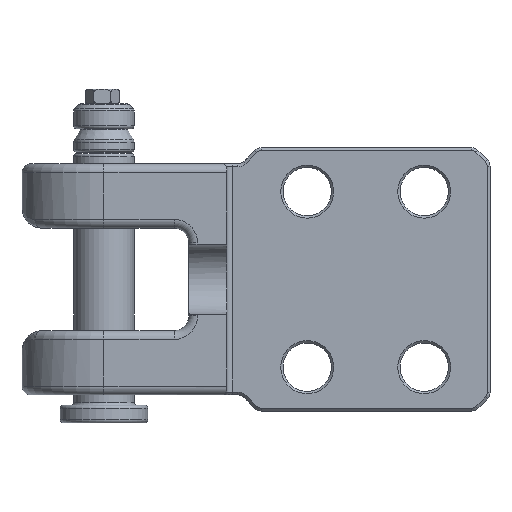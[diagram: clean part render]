
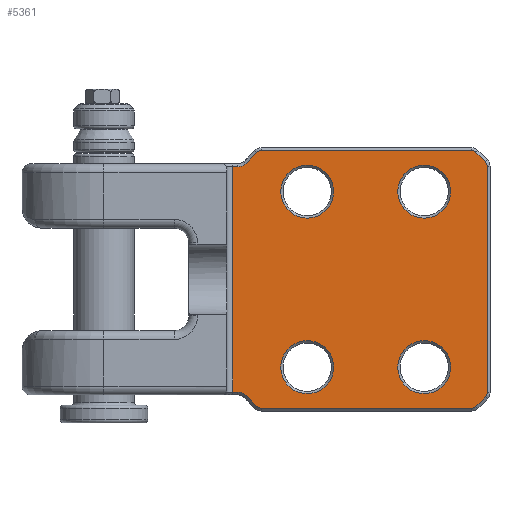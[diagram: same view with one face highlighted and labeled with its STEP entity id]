
A CAD part, left-side view. The second image highlights one B-rep face of the part: STEP entity #5361.
In plain terms, the highlighted planar face has unit normal (-1, 0, 0).
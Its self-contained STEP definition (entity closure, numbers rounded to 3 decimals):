
#680=LINE('',#24152,#1715);
#681=LINE('',#24154,#1716);
#682=LINE('',#24156,#1717);
#683=LINE('',#24160,#1718);
#684=LINE('',#24164,#1719);
#685=LINE('',#24168,#1720);
#686=LINE('',#24172,#1721);
#687=LINE('',#24176,#1722);
#688=LINE('',#24180,#1723);
#689=LINE('',#24184,#1724);
#1715=VECTOR('',#17602,1.);
#1716=VECTOR('',#17603,1.);
#1717=VECTOR('',#17604,1.);
#1718=VECTOR('',#17607,1.);
#1719=VECTOR('',#17610,1.);
#1720=VECTOR('',#17613,1.);
#1721=VECTOR('',#17616,1.);
#1722=VECTOR('',#17619,1.);
#1723=VECTOR('',#17622,1.);
#1724=VECTOR('',#17625,1.);
#5361=ADVANCED_FACE('',(#6643,#6644,#6645,#6646,#6647),#6240,.F.);
#6240=PLANE('',#16565);
#6643=FACE_BOUND('',#6864,.T.);
#6644=FACE_BOUND('',#6865,.T.);
#6645=FACE_BOUND('',#6866,.T.);
#6646=FACE_BOUND('',#6867,.T.);
#6647=FACE_BOUND('',#6868,.T.);
#6864=EDGE_LOOP('',(#8267));
#6865=EDGE_LOOP('',(#8268));
#6866=EDGE_LOOP('',(#8269));
#6867=EDGE_LOOP('',(#8270));
#6868=EDGE_LOOP('',(#8271,#8272,#8273,#8274,#8275,#8276,#8277,#8278,#8279,
#8280,#8281,#8282,#8283,#8284,#8285,#8286,#8287,#8288));
#8267=ORIENTED_EDGE('',*,*,#14329,.T.);
#8268=ORIENTED_EDGE('',*,*,#14330,.T.);
#8269=ORIENTED_EDGE('',*,*,#14331,.T.);
#8270=ORIENTED_EDGE('',*,*,#14332,.T.);
#8271=ORIENTED_EDGE('',*,*,#14333,.T.);
#8272=ORIENTED_EDGE('',*,*,#14334,.T.);
#8273=ORIENTED_EDGE('',*,*,#14335,.T.);
#8274=ORIENTED_EDGE('',*,*,#14336,.T.);
#8275=ORIENTED_EDGE('',*,*,#14337,.T.);
#8276=ORIENTED_EDGE('',*,*,#14338,.T.);
#8277=ORIENTED_EDGE('',*,*,#14339,.T.);
#8278=ORIENTED_EDGE('',*,*,#14340,.T.);
#8279=ORIENTED_EDGE('',*,*,#14341,.T.);
#8280=ORIENTED_EDGE('',*,*,#14342,.T.);
#8281=ORIENTED_EDGE('',*,*,#14343,.T.);
#8282=ORIENTED_EDGE('',*,*,#14344,.T.);
#8283=ORIENTED_EDGE('',*,*,#14345,.T.);
#8284=ORIENTED_EDGE('',*,*,#14346,.T.);
#8285=ORIENTED_EDGE('',*,*,#14347,.T.);
#8286=ORIENTED_EDGE('',*,*,#14348,.T.);
#8287=ORIENTED_EDGE('',*,*,#14349,.T.);
#8288=ORIENTED_EDGE('',*,*,#14350,.T.);
#12802=VERTEX_POINT('',#24142);
#12803=VERTEX_POINT('',#24144);
#12804=VERTEX_POINT('',#24146);
#12805=VERTEX_POINT('',#24148);
#12806=VERTEX_POINT('',#24150);
#12807=VERTEX_POINT('',#24151);
#12808=VERTEX_POINT('',#24153);
#12809=VERTEX_POINT('',#24155);
#12810=VERTEX_POINT('',#24157);
#12811=VERTEX_POINT('',#24159);
#12812=VERTEX_POINT('',#24161);
#12813=VERTEX_POINT('',#24163);
#12814=VERTEX_POINT('',#24165);
#12815=VERTEX_POINT('',#24167);
#12816=VERTEX_POINT('',#24169);
#12817=VERTEX_POINT('',#24171);
#12818=VERTEX_POINT('',#24173);
#12819=VERTEX_POINT('',#24175);
#12820=VERTEX_POINT('',#24177);
#12821=VERTEX_POINT('',#24179);
#12822=VERTEX_POINT('',#24181);
#12823=VERTEX_POINT('',#24183);
#14329=EDGE_CURVE('',#12802,#12802,#16267,.T.);
#14330=EDGE_CURVE('',#12803,#12803,#16268,.T.);
#14331=EDGE_CURVE('',#12804,#12804,#16269,.T.);
#14332=EDGE_CURVE('',#12805,#12805,#16270,.T.);
#14333=EDGE_CURVE('',#12806,#12807,#16271,.T.);
#14334=EDGE_CURVE('',#12807,#12808,#680,.T.);
#14335=EDGE_CURVE('',#12808,#12809,#681,.T.);
#14336=EDGE_CURVE('',#12809,#12810,#682,.T.);
#14337=EDGE_CURVE('',#12810,#12811,#16272,.T.);
#14338=EDGE_CURVE('',#12811,#12812,#683,.T.);
#14339=EDGE_CURVE('',#12812,#12813,#16273,.T.);
#14340=EDGE_CURVE('',#12813,#12814,#684,.T.);
#14341=EDGE_CURVE('',#12814,#12815,#16274,.T.);
#14342=EDGE_CURVE('',#12815,#12816,#685,.T.);
#14343=EDGE_CURVE('',#12816,#12817,#16275,.T.);
#14344=EDGE_CURVE('',#12817,#12818,#686,.T.);
#14345=EDGE_CURVE('',#12818,#12819,#16276,.T.);
#14346=EDGE_CURVE('',#12819,#12820,#687,.T.);
#14347=EDGE_CURVE('',#12820,#12821,#16277,.T.);
#14348=EDGE_CURVE('',#12821,#12822,#688,.T.);
#14349=EDGE_CURVE('',#12822,#12823,#16278,.T.);
#14350=EDGE_CURVE('',#12823,#12806,#689,.T.);
#16267=CIRCLE('',#16553,9.05);
#16268=CIRCLE('',#16554,9.05);
#16269=CIRCLE('',#16555,9.05);
#16270=CIRCLE('',#16556,9.05);
#16271=CIRCLE('',#16557,4.);
#16272=CIRCLE('',#16558,4.);
#16273=CIRCLE('',#16559,2.);
#16274=CIRCLE('',#16560,2.);
#16275=CIRCLE('',#16561,2.);
#16276=CIRCLE('',#16562,2.);
#16277=CIRCLE('',#16563,2.);
#16278=CIRCLE('',#16564,2.);
#16553=AXIS2_PLACEMENT_3D('',#24141,#17592,#17593);
#16554=AXIS2_PLACEMENT_3D('',#24143,#17594,#17595);
#16555=AXIS2_PLACEMENT_3D('',#24145,#17596,#17597);
#16556=AXIS2_PLACEMENT_3D('',#24147,#17598,#17599);
#16557=AXIS2_PLACEMENT_3D('',#24149,#17600,#17601);
#16558=AXIS2_PLACEMENT_3D('',#24158,#17605,#17606);
#16559=AXIS2_PLACEMENT_3D('',#24162,#17608,#17609);
#16560=AXIS2_PLACEMENT_3D('',#24166,#17611,#17612);
#16561=AXIS2_PLACEMENT_3D('',#24170,#17614,#17615);
#16562=AXIS2_PLACEMENT_3D('',#24174,#17617,#17618);
#16563=AXIS2_PLACEMENT_3D('',#24178,#17620,#17621);
#16564=AXIS2_PLACEMENT_3D('',#24182,#17623,#17624);
#16565=AXIS2_PLACEMENT_3D('',#24185,#17626,#17627);
#17592=DIRECTION('',(1.,0.,0.));
#17593=DIRECTION('',(0.,0.,-1.));
#17594=DIRECTION('',(1.,0.,0.));
#17595=DIRECTION('',(0.,0.,-1.));
#17596=DIRECTION('',(1.,0.,0.));
#17597=DIRECTION('',(0.,0.,-1.));
#17598=DIRECTION('',(1.,0.,0.));
#17599=DIRECTION('',(0.,0.,-1.));
#17600=DIRECTION('',(1.,0.,0.));
#17601=DIRECTION('',(0.,0.,-1.));
#17602=DIRECTION('',(0.,1.,0.));
#17603=DIRECTION('',(0.,0.,-1.));
#17604=DIRECTION('',(0.,-1.,0.));
#17605=DIRECTION('',(1.,0.,0.));
#17606=DIRECTION('',(0.,0.,-1.));
#17607=DIRECTION('',(0.,-0.707,-0.707));
#17608=DIRECTION('',(-1.,0.,0.));
#17609=DIRECTION('',(0.,0.,-1.));
#17610=DIRECTION('',(0.,-1.,0.));
#17611=DIRECTION('',(-1.,0.,0.));
#17612=DIRECTION('',(0.,0.,-1.));
#17613=DIRECTION('',(0.,-0.707,0.707));
#17614=DIRECTION('',(-1.,0.,0.));
#17615=DIRECTION('',(0.,0.,-1.));
#17616=DIRECTION('',(0.,0.,1.));
#17617=DIRECTION('',(-1.,0.,0.));
#17618=DIRECTION('',(0.,0.,-1.));
#17619=DIRECTION('',(0.,0.707,0.707));
#17620=DIRECTION('',(-1.,0.,0.));
#17621=DIRECTION('',(0.,0.,-1.));
#17622=DIRECTION('',(0.,1.,0.));
#17623=DIRECTION('',(-1.,0.,0.));
#17624=DIRECTION('',(0.,0.,-1.));
#17625=DIRECTION('',(0.,0.707,-0.707));
#17626=DIRECTION('',(1.,0.,0.));
#17627=DIRECTION('',(0.,0.,-1.));
#24141=CARTESIAN_POINT('',(-8.,22.5,-75.));
#24142=CARTESIAN_POINT('',(-8.,22.5,-84.05));
#24143=CARTESIAN_POINT('',(-8.,22.5,-15.));
#24144=CARTESIAN_POINT('',(-8.,22.5,-24.05));
#24145=CARTESIAN_POINT('',(-8.,62.5,-15.));
#24146=CARTESIAN_POINT('',(-8.,62.5,-24.05));
#24147=CARTESIAN_POINT('',(-8.,62.5,-75.));
#24148=CARTESIAN_POINT('',(-8.,62.5,-84.05));
#24149=CARTESIAN_POINT('',(-8.,86.243,-2.5));
#24150=CARTESIAN_POINT('',(-8.,83.414,-5.328));
#24151=CARTESIAN_POINT('',(-8.,86.243,-6.5));
#24152=CARTESIAN_POINT('',(-8.,0.,-6.5));
#24153=CARTESIAN_POINT('',(-8.,88.,-6.5));
#24154=CARTESIAN_POINT('',(-8.,88.,0.));
#24155=CARTESIAN_POINT('',(-8.,88.,-83.5));
#24156=CARTESIAN_POINT('',(-8.,86.243,-83.5));
#24157=CARTESIAN_POINT('',(-8.,86.243,-83.5));
#24158=CARTESIAN_POINT('',(-8.,86.243,-87.5));
#24159=CARTESIAN_POINT('',(-8.,83.414,-84.672));
#24160=CARTESIAN_POINT('',(-8.,79.672,-88.414));
#24161=CARTESIAN_POINT('',(-8.,79.672,-88.414));
#24162=CARTESIAN_POINT('',(-8.,78.257,-87.));
#24163=CARTESIAN_POINT('',(-8.,78.257,-89.));
#24164=CARTESIAN_POINT('',(-8.,0.,-89.));
#24165=CARTESIAN_POINT('',(-8.,6.243,-89.));
#24166=CARTESIAN_POINT('',(-8.,6.243,-87.));
#24167=CARTESIAN_POINT('',(-8.,4.828,-88.414));
#24168=CARTESIAN_POINT('',(-8.,1.586,-85.172));
#24169=CARTESIAN_POINT('',(-8.,1.586,-85.172));
#24170=CARTESIAN_POINT('',(-8.,3.,-83.757));
#24171=CARTESIAN_POINT('',(-8.,1.,-83.757));
#24172=CARTESIAN_POINT('',(-8.,1.,0.));
#24173=CARTESIAN_POINT('',(-8.,1.,-6.243));
#24174=CARTESIAN_POINT('',(-8.,3.,-6.243));
#24175=CARTESIAN_POINT('',(-8.,1.586,-4.828));
#24176=CARTESIAN_POINT('',(-8.,4.828,-1.586));
#24177=CARTESIAN_POINT('',(-8.,4.828,-1.586));
#24178=CARTESIAN_POINT('',(-8.,6.243,-3.));
#24179=CARTESIAN_POINT('',(-8.,6.243,-1.));
#24180=CARTESIAN_POINT('',(-8.,0.,-1.));
#24181=CARTESIAN_POINT('',(-8.,78.257,-1.));
#24182=CARTESIAN_POINT('',(-8.,78.257,-3.));
#24183=CARTESIAN_POINT('',(-8.,79.672,-1.586));
#24184=CARTESIAN_POINT('',(-8.,83.414,-5.328));
#24185=CARTESIAN_POINT('',(-8.,0.,0.));
